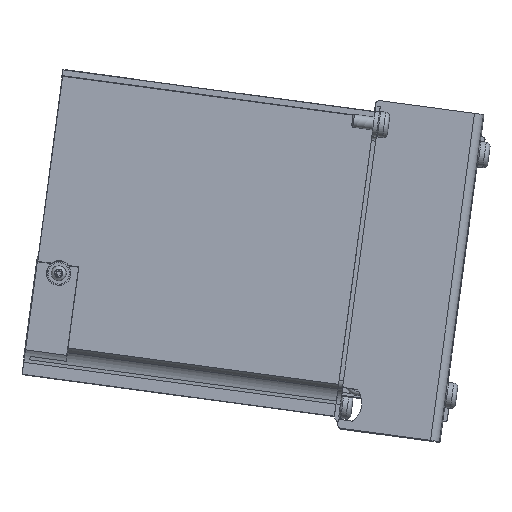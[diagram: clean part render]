
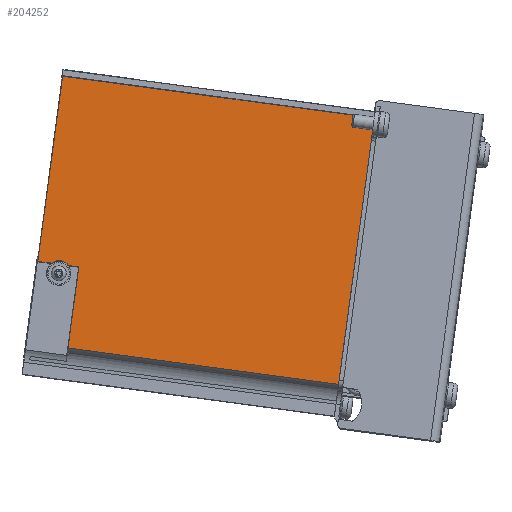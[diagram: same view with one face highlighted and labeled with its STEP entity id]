
A CAD part, front view. The second image highlights one B-rep face of the part: STEP entity #204252.
In plain terms, the highlighted planar face has unit normal (-0.007, -1, 0.009).
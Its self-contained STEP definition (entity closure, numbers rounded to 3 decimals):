
#4221=CIRCLE('',#216913,2.925);
#15453=FACE_OUTER_BOUND('',#26230,.T.);
#26230=EDGE_LOOP('',(#171119,#171120,#171121,#171122,#171123,#171124,#171125,
#171126));
#49480=LINE('',#322165,#73528);
#49533=LINE('',#322282,#73581);
#49571=LINE('',#322393,#73619);
#49572=LINE('',#322394,#73620);
#49573=LINE('',#322396,#73621);
#49574=LINE('',#322397,#73622);
#49575=LINE('',#322398,#73623);
#73528=VECTOR('',#263755,1.);
#73581=VECTOR('',#263868,1.);
#73619=VECTOR('',#263962,1.);
#73620=VECTOR('',#263963,1.);
#73621=VECTOR('',#263964,1.);
#73622=VECTOR('',#263965,1.);
#73623=VECTOR('',#263966,1.);
#91331=VERTEX_POINT('',#322162);
#91332=VERTEX_POINT('',#322164);
#91363=VERTEX_POINT('',#322274);
#91366=VERTEX_POINT('',#322280);
#91402=VERTEX_POINT('',#322384);
#91403=VERTEX_POINT('',#322386);
#91405=VERTEX_POINT('',#322392);
#91406=VERTEX_POINT('',#322395);
#118142=EDGE_CURVE('',#91332,#91331,#49480,.T.);
#118203=EDGE_CURVE('',#91366,#91363,#49533,.T.);
#118252=EDGE_CURVE('',#91403,#91402,#4221,.T.);
#118255=EDGE_CURVE('',#91402,#91405,#49571,.T.);
#118256=EDGE_CURVE('',#91405,#91363,#49572,.T.);
#118257=EDGE_CURVE('',#91366,#91406,#49573,.T.);
#118258=EDGE_CURVE('',#91406,#91332,#49574,.T.);
#118259=EDGE_CURVE('',#91331,#91403,#49575,.T.);
#171119=ORIENTED_EDGE('',*,*,#118252,.T.);
#171120=ORIENTED_EDGE('',*,*,#118255,.T.);
#171121=ORIENTED_EDGE('',*,*,#118256,.T.);
#171122=ORIENTED_EDGE('',*,*,#118203,.F.);
#171123=ORIENTED_EDGE('',*,*,#118257,.T.);
#171124=ORIENTED_EDGE('',*,*,#118258,.T.);
#171125=ORIENTED_EDGE('',*,*,#118142,.T.);
#171126=ORIENTED_EDGE('',*,*,#118259,.T.);
#184615=PLANE('',#216916);
#204252=ADVANCED_FACE('',(#15453),#184615,.T.);
#216913=AXIS2_PLACEMENT_3D('',#322387,#263954,#263955);
#216916=AXIS2_PLACEMENT_3D('',#322391,#263960,#263961);
#263755=DIRECTION('',(-0.133,-0.007,-0.991));
#263868=DIRECTION('',(-0.991,0.009,0.133));
#263954=DIRECTION('center_axis',(0.007,1.,
-0.009));
#263955=DIRECTION('ref_axis',(-0.133,-0.007,-0.991));
#263960=DIRECTION('center_axis',(-0.007,-1.,
0.009));
#263961=DIRECTION('ref_axis',(-0.991,0.009,0.133));
#263962=DIRECTION('',(0.991,-0.009,-0.133));
#263963=DIRECTION('',(-0.133,-0.007,-0.991));
#263964=DIRECTION('',(0.133,0.007,0.991));
#263965=DIRECTION('',(-0.991,0.009,0.133));
#263966=DIRECTION('',(0.991,-0.009,-0.133));
#322162=CARTESIAN_POINT('',(-76.942,-7.579,14.793));
#322164=CARTESIAN_POINT('',(-71.131,-7.253,58.003));
#322165=CARTESIAN_POINT('',(-73.411,-7.381,41.046));
#322274=CARTESIAN_POINT('',(-69.878,-7.804,-5.445));
#322280=CARTESIAN_POINT('',(-6.748,-8.348,-13.931));
#322282=CARTESIAN_POINT('',(-6.748,-8.348,-13.931));
#322384=CARTESIAN_POINT('',(-69.772,-7.64,13.83));
#322386=CARTESIAN_POINT('',(-73.807,-7.606,14.372));
#322387=CARTESIAN_POINT('Origin',(-72.07,-7.639,12.02));
#322391=CARTESIAN_POINT('Origin',(1.611,-7.879,48.225));
#322392=CARTESIAN_POINT('',(-67.33,-7.661,13.501));
#322393=CARTESIAN_POINT('',(-40.72,-7.891,9.924));
#322394=CARTESIAN_POINT('',(-65.119,-7.538,29.942));
#322395=CARTESIAN_POINT('',(1.611,-7.879,48.225));
#322396=CARTESIAN_POINT('',(-6.748,-8.348,-13.931));
#322397=CARTESIAN_POINT('',(1.611,-7.879,48.225));
#322398=CARTESIAN_POINT('',(-40.72,-7.891,9.924));
